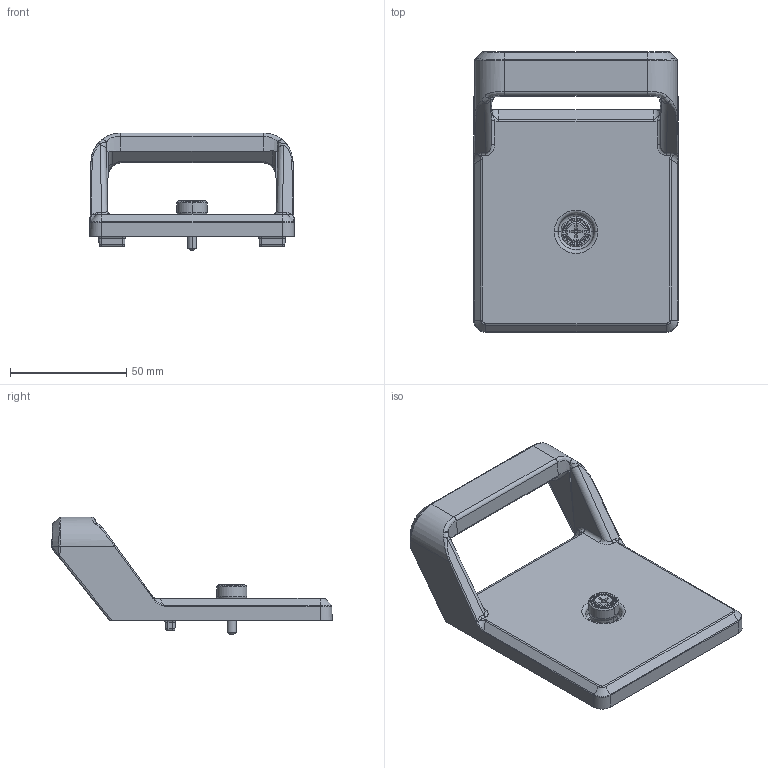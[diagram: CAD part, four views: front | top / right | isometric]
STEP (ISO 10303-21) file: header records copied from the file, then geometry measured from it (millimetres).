
FILE_DESCRIPTION((''),'2;1');
FILE_NAME('CU_CRIO_CARRY_HANDLE','2018-06-08T',('dkendric'),(''),'CREO PARAMETRIC BY PTC INC, 2017480','CREO PARAMETRIC BY PTC INC, 2017480','');
FILE_SCHEMA(('AUTOMOTIVE_DESIGN { 1 0 10303 214 1 1 1 1 }'));
Length unit declared in the file: millimetre
Products named in the file (1): CU_CRIO_CARRY_HANDLE
Bounding box: 88.1 x 120.63 x 50.74 mm (x, y, z)
Volume: 105694.2 mm3; surface area: 29164.3 mm2
Topology: 1 solids, 1 shells, 357 faces, 832 edges, 496 vertices
Faces by surface type: cylinder 106, plane 102, bspline 71, cone 38, torus 26, sphere 12, extrusion 2
Entity records: 19717 total; most frequent: CARTESIAN_POINT 7760, ORIENTED_EDGE 1664, DIRECTION 1412, EDGE_CURVE 832, FILL_AREA_STYLE_COLOUR 695, FILL_AREA_STYLE 695, SURFACE_STYLE_FILL_AREA 695, SURFACE_SIDE_STYLE 695
